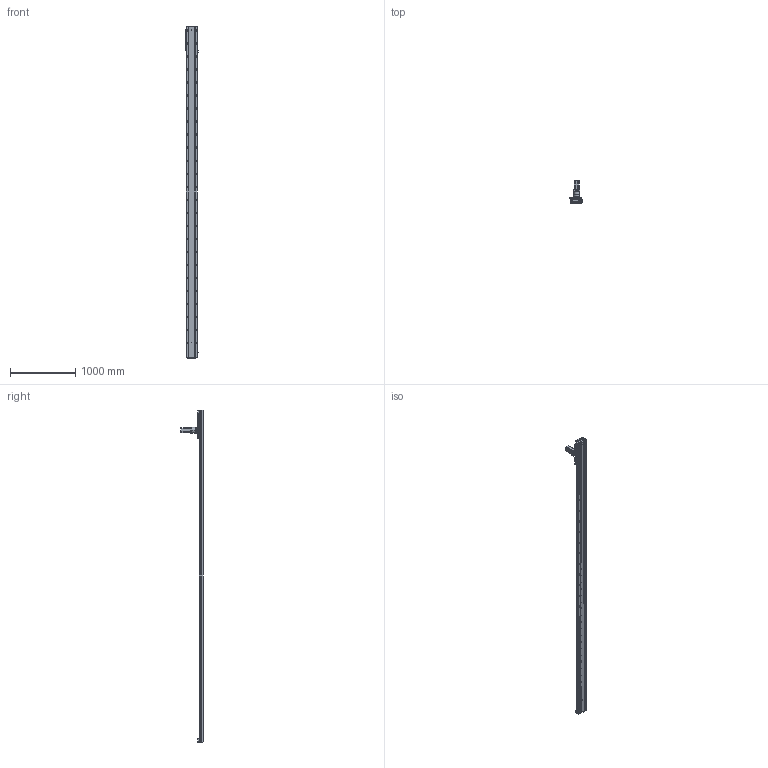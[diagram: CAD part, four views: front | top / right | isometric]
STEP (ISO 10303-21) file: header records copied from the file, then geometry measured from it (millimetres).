
FILE_DESCRIPTION (( 'STEP AP203' ), '1' );
FILE_NAME ('RY170-C-1000-UK.SLDASM_4600.step', '2021-03-03T00:50:54', ( '盈信电脑' ), ( '东莞市道滘镇水果街19号' ), 'SwSTEP 2.0', 'SolidWorks 2012', '' );
FILE_SCHEMA (( 'CONFIG_CONTROL_DESIGN' ));
Products named in the file (13): RY170-C-1000-UK.SLDASM_4600; RY170-喘沭賑輸; RY170-喘沭滅袉蝶輸; 左旋斜齿齿轮_M2_22齿_内孔20; TF080等撰; 覜茼ん672; RY170外置感应片(200共用）; 怢湛750W萇儂ㄗ80遺ㄘ; RY170-喘謫萇儂覃誹啣; RY170-1000齿条模组型材底座_4600; 絳寢賑輸EGH20CA; RY170-1000-喘沭耀郪絳寢EGH20CA_4600; RY170綴裔啣ㄗ蜊秶ㄘ
Assembly tree (22 placements, depth 2):
  RY170-C-1000-UK.SLDASM_4600
    RY170-1000齿条模组型材底座_4600
    絳寢賑輸EGH20CA  x6
    RY170-1000-喘沭耀郪絳寢EGH20CA_4600  x2
    RY170綴裔啣ㄗ蜊秶ㄘ  x2
    覜茼ん672  x3
    RY170外置感应片(200共用）
    RY170-喘謫萇儂覃誹啣
    怢湛750W萇儂ㄗ80遺ㄘ
    RY170-喘沭滅袉蝶輸  x2
    TF080等撰
    左旋斜齿齿轮_M2_22齿_内孔20
    RY170-喘沭賑輸
Bounding box: 188.7 x 343.5 x 5100 mm (x, y, z)
Volume: 23889965.7 mm3; surface area: 6338712.7 mm2
Topology: 24 solids, 24 shells, 5720 faces, 16506 edges, 10451 vertices
Faces by surface type: cylinder 2584, plane 2540, cone 542, bspline 50, torus 4
Entity records: 138044 total; most frequent: CARTESIAN_POINT 35110, ORIENTED_EDGE 21866, DIRECTION 20800, EDGE_CURVE 10933, AXIS2_PLACEMENT_3D 7858, VERTEX_POINT 7099, VECTOR 5084, LINE 5084
